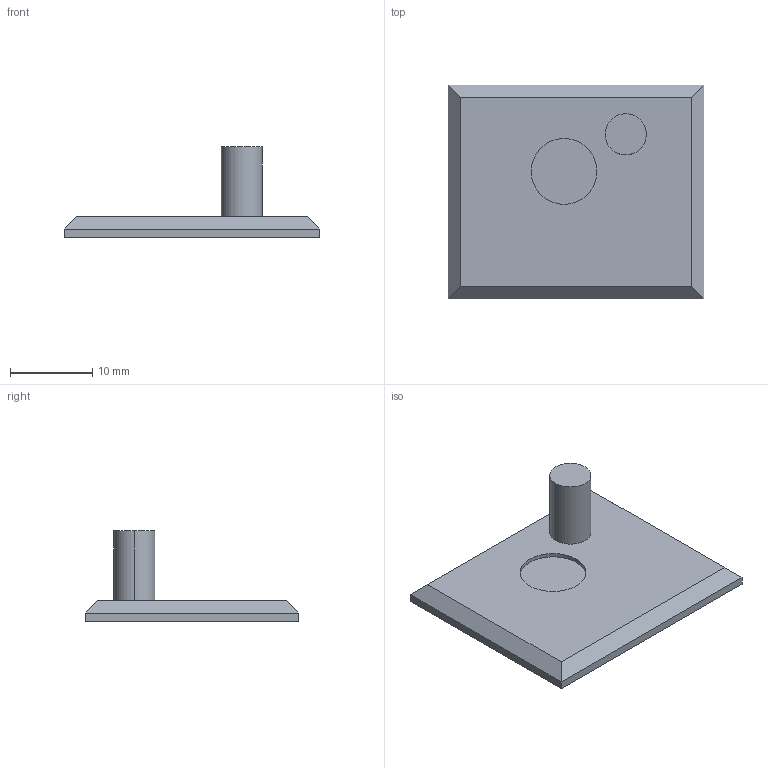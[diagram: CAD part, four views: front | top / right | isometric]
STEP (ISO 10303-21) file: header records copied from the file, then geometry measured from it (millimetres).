
FILE_DESCRIPTION (( 'STEP AP214' ), '1' );
FILE_NAME ('Schliessaufsatz_Ojmar.step', '2010-09-29T12:03:58', ( 'grass' ), ( '' ), 'SwSTEP 2.0', 'SolidWorks 2010', '' );
FILE_SCHEMA (( 'AUTOMOTIVE_DESIGN' ));
Length unit declared in the file: millimetre
Products named in the file (1): Schliessaufsatz_Ojmar
Bounding box: 31.1 x 26 x 11 mm (x, y, z)
Volume: 2039.3 mm3; surface area: 1944.7 mm2
Topology: 1 solids, 1 shells, 16 faces, 32 edges, 20 vertices
Faces by surface type: plane 12, cylinder 4
Entity records: 446 total; most frequent: DIRECTION 74, CARTESIAN_POINT 69, ORIENTED_EDGE 64, EDGE_CURVE 32, AXIS2_PLACEMENT_3D 25, VECTOR 24, LINE 24, VERTEX_POINT 20
